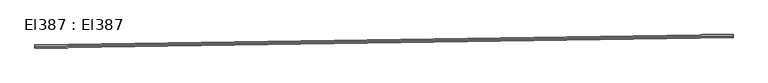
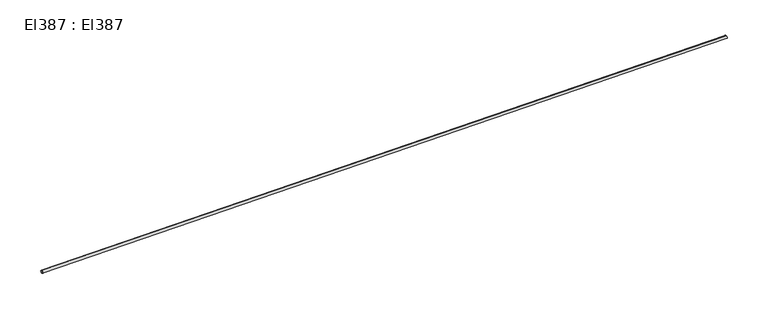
"""IFC4 building model written with IfcOpenShell, lengths in millimetres: cable carrier segment geometry, El387 : El387."""

from ifc_helpers import new_model, si_unit, point, frame, frame_2d, origin, place, context, project, spatial, circle_curve, trimmed, segment, composite_curve, outline, extrude, source, transform, mapped, element, save


def el387_el387_afceba41(model_context):
    return source(origin(), model_context, "Body", "SweptSolid", [
        extrude(outline(composite_curve([segment(trimmed(circle_curve(frame_2d((0.0, -9.5)), 9.5), [point((0.0, -19.0))], [point((0.0, 0.0))], False, "CARTESIAN"), True, "CONTINUOUS"), segment(trimmed(circle_curve(frame_2d((0.0, -9.5)), 9.5), [point((0.0, 0.0))], [point((0.0, -19.0))], False, "CARTESIAN"), True, "CONTINUOUS")], self_intersect=False)), frame((20467.23, 21396.8384, 9.5), z_axis=(0.9998852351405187, 0.015149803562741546, 0.0), x_axis=(-0.015149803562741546, 0.9998852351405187, 0.0)), (0.0, 0.0, 1.0), 4826.69),
    ])


if __name__ == "__main__":
    model = new_model("IFC4")
    model_context = context("Model", 3, world=origin())
    ifc_project = project(units=[si_unit("LENGTHUNIT", "METRE", prefix="MILLI")], contexts=[model_context])
    site = spatial("IfcSite", under=ifc_project)
    building = spatial("IfcBuilding", under=site)
    placement = place(None, origin())
    el387_el387_shape = el387_el387_afceba41(model_context)
    element("IfcCableCarrierSegment", 1, ObjectType="El387 : El387", at=placement, inside=building, context=model_context, shape_type="MappedRepresentation", body=[
        mapped(el387_el387_shape, transform((0.0, 0.0, 0.0), x_axis=(1.0, 0.0, 0.0), y_axis=(0.0, 1.0, 0.0), z_axis=(0.0, 0.0, 1.0))),
    ])
    save(model, "model.ifc")
